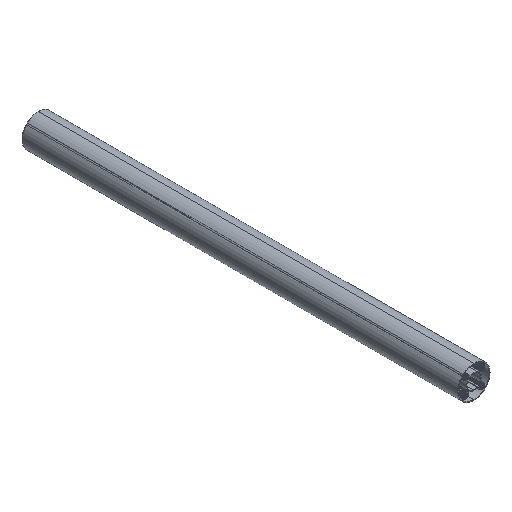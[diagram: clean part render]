
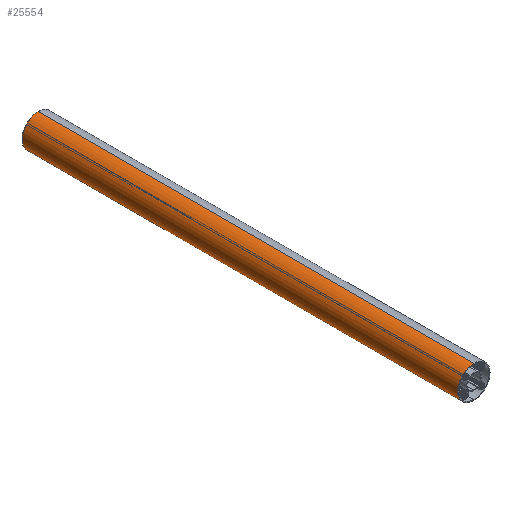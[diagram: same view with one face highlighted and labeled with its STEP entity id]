
A CAD part, isometric view. The second image highlights one B-rep face of the part: STEP entity #25554.
In plain terms, the highlighted cylindrical face has radius 15.975 mm (diameter 31.95 mm), a partial arc.
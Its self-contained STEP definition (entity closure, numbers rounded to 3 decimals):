
#14 = VERTEX_POINT ( 'NONE', #9333 ) ;
#1870 = DIRECTION ( 'NONE',  ( 0., 1., 0. ) ) ;
#2683 = ORIENTED_EDGE ( 'NONE', *, *, #33511, .F. ) ;
#3274 = CARTESIAN_POINT ( 'NONE',  ( 0., 432., -15.975 ) ) ;
#5533 = VERTEX_POINT ( 'NONE', #25045 ) ;
#5820 = AXIS2_PLACEMENT_3D ( 'NONE', #15115, #46955, #47295 ) ;
#6569 = CYLINDRICAL_SURFACE ( 'NONE', #5820, 15.975 ) ;
#6647 = DIRECTION ( 'NONE',  ( 0., 0., 1. ) ) ;
#6953 = VECTOR ( 'NONE', #17418, 1000. ) ;
#7020 = ORIENTED_EDGE ( 'NONE', *, *, #41369, .F. ) ;
#7121 = VECTOR ( 'NONE', #19180, 1000. ) ;
#9333 = CARTESIAN_POINT ( 'NONE',  ( 0., 432., 15.975 ) ) ;
#13192 = LINE ( 'NONE', #17930, #6953 ) ;
#14996 = ORIENTED_EDGE ( 'NONE', *, *, #48433, .T. ) ;
#15100 = VERTEX_POINT ( 'NONE', #43325 ) ;
#15115 = CARTESIAN_POINT ( 'NONE',  ( 0., 432., 0. ) ) ;
#15834 = FACE_OUTER_BOUND ( 'NONE', #38052, .T. ) ;
#17418 = DIRECTION ( 'NONE',  ( 0., -1., 0. ) ) ;
#17930 = CARTESIAN_POINT ( 'NONE',  ( 0., 432., 15.975 ) ) ;
#19180 = DIRECTION ( 'NONE',  ( 0., -1., 0. ) ) ;
#20178 = CARTESIAN_POINT ( 'NONE',  ( 0., 0., -15.975 ) ) ;
#25045 = CARTESIAN_POINT ( 'NONE',  ( 0., 432., -15.975 ) ) ;
#25554 = ADVANCED_FACE ( 'NONE', ( #15834 ), #6569, .T. ) ;
#29449 = LINE ( 'NONE', #3274, #7121 ) ;
#29564 = CARTESIAN_POINT ( 'NONE',  ( 0., 432., 0. ) ) ;
#29665 = ORIENTED_EDGE ( 'NONE', *, *, #48969, .T. ) ;
#30517 = AXIS2_PLACEMENT_3D ( 'NONE', #29564, #1870, #45796 ) ;
#31694 = AXIS2_PLACEMENT_3D ( 'NONE', #34649, #42619, #6647 ) ;
#33511 = EDGE_CURVE ( 'NONE', #5533, #14, #44877, .T. ) ;
#33909 = VERTEX_POINT ( 'NONE', #20178 ) ;
#34649 = CARTESIAN_POINT ( 'NONE',  ( 0., 0., 0. ) ) ;
#36918 = CIRCLE ( 'NONE', #31694, 15.975 ) ;
#38052 = EDGE_LOOP ( 'NONE', ( #7020, #2683, #29665, #14996 ) ) ;
#41369 = EDGE_CURVE ( 'NONE', #14, #15100, #13192, .T. ) ;
#42619 = DIRECTION ( 'NONE',  ( 0., 1., 0. ) ) ;
#43325 = CARTESIAN_POINT ( 'NONE',  ( 0., 0., 15.975 ) ) ;
#44877 = CIRCLE ( 'NONE', #30517, 15.975 ) ;
#45796 = DIRECTION ( 'NONE',  ( 0., 0., 1. ) ) ;
#46955 = DIRECTION ( 'NONE',  ( 0., -1., 0. ) ) ;
#47295 = DIRECTION ( 'NONE',  ( 0., 0., -1. ) ) ;
#48433 = EDGE_CURVE ( 'NONE', #33909, #15100, #36918, .T. ) ;
#48969 = EDGE_CURVE ( 'NONE', #5533, #33909, #29449, .T. ) ;
